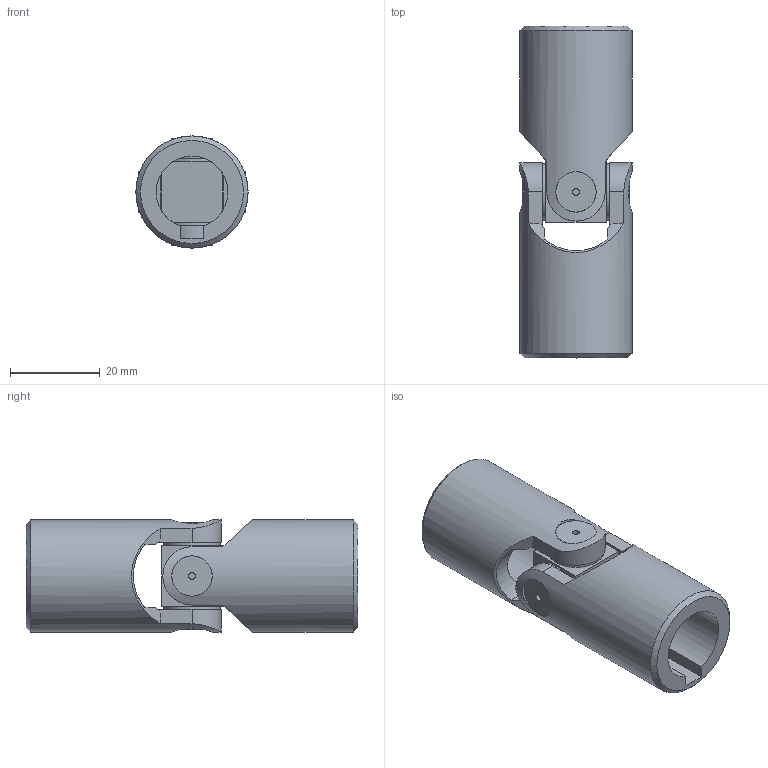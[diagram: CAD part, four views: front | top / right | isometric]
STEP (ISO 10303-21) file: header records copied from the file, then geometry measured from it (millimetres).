
FILE_DESCRIPTION(/* description */ ('EXTENSIBLE TRANSIMISSIONS Series G DIN 808 -2-'),/* implementation_level */ '2;1');
FILE_NAME(/* name */ '\\SRV2016\Societa\Stefano\Disegni 3D\Dis. Clienti\0000Catalogo 3D\01Singoli G-GB\Ø25_1GB-1C_SGBS161C.stp',/* time_stamp */ '2021-11-10T15:05:01+01:00',/* author */ ('acquisti'),/* organization */ ('MARIOFERRI'),/* preprocessor_version */ 'ST-DEVELOPER v15.6',/* originating_system */ 'Autodesk Inventor 2015',/* authorisation */ '');
FILE_SCHEMA (('AUTOMOTIVE_DESIGN { 1 0 10303 214 3 1 1 }'));
Length unit declared in the file: millimetre
Products named in the file (4): 04G SFE; 1GB MOS; 1GB MOC; Assieme6
Assembly tree (3 placements, depth 2):
  Assieme6
    04G SFE
    1GB MOS
    1GB MOC
Bounding box: 25 x 74 x 25 mm (x, y, z)
Volume: 20969 mm3; surface area: 11133.4 mm2
Topology: 3 solids, 3 shells, 89 faces, 217 edges, 142 vertices
Faces by surface type: plane 43, cylinder 32, cone 10, torus 4
Full cylindrical faces by diameter (mm): 1.5 x4, 12.5 x4, 16 x1, 25 x2
Entity records: 2976 total; most frequent: CARTESIAN_POINT 949, ORIENTED_EDGE 402, DIRECTION 391, EDGE_CURVE 201, AXIS2_PLACEMENT_3D 168, VERTEX_POINT 141, EDGE_LOOP 116, FACE_OUTER_BOUND 89
